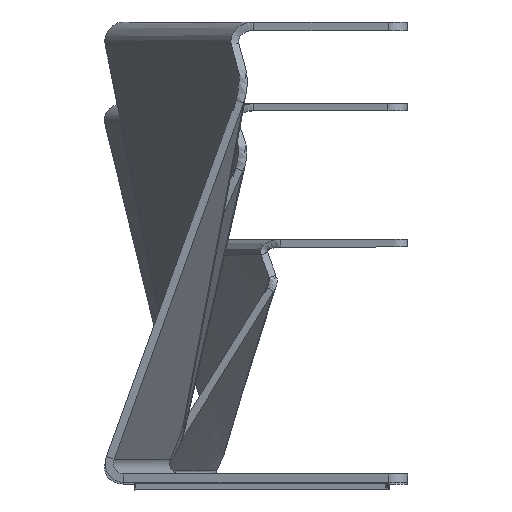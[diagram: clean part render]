
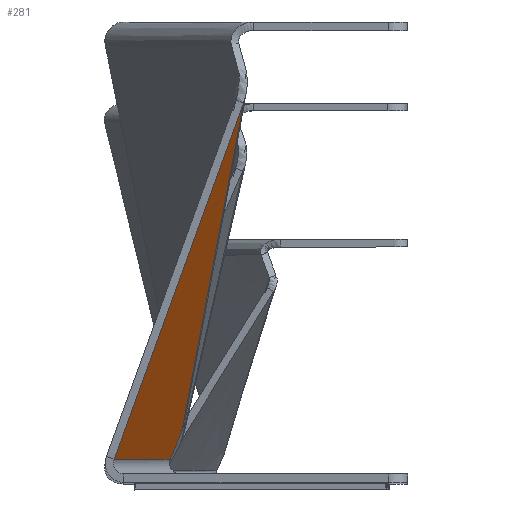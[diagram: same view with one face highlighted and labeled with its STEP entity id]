
A CAD part, left-side view. The second image highlights one B-rep face of the part: STEP entity #281.
In plain terms, the highlighted free-form (B-spline) face has degree [1, 9] with [2, 10] control points.
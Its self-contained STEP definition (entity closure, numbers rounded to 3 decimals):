
#281=ADVANCED_FACE('',(#495),#3029,.T.);
#495=FACE_OUTER_BOUND('',#709,.T.);
#709=EDGE_LOOP('',(#1436,#1437,#1438,#1439));
#1436=ORIENTED_EDGE('',*,*,#2030,.F.);
#1437=ORIENTED_EDGE('',*,*,#1997,.T.);
#1438=ORIENTED_EDGE('',*,*,#2029,.F.);
#1439=ORIENTED_EDGE('',*,*,#2028,.F.);
#1997=EDGE_CURVE('',#2787,#2788,#2433,.T.);
#2028=EDGE_CURVE('',#2803,#2805,#2459,.T.);
#2029=EDGE_CURVE('',#2805,#2788,#2460,.T.);
#2030=EDGE_CURVE('',#2787,#2803,#2461,.T.);
#2433=B_SPLINE_CURVE_WITH_KNOTS('',9,(#15454,#15455,#15456,#15457,#15458,
#15459,#15460,#15461,#15462,#15463),.UNSPECIFIED.,.F.,.F.,(10,10),(0.,1.),
 .UNSPECIFIED.);
#2459=B_SPLINE_CURVE_WITH_KNOTS('',9,(#15848,#15849,#15850,#15851,#15852,
#15853,#15854,#15855,#15856,#15857),.UNSPECIFIED.,.F.,.F.,(10,10),(0.,1.),
 .UNSPECIFIED.);
#2460=B_SPLINE_CURVE_WITH_KNOTS('',1,(#15858,#15859),.UNSPECIFIED.,.F.,
 .F.,(2,2),(0.,1.),.UNSPECIFIED.);
#2461=B_SPLINE_CURVE_WITH_KNOTS('',1,(#15860,#15861),.UNSPECIFIED.,.F.,
 .F.,(2,2),(-1.,0.),.UNSPECIFIED.);
#2787=VERTEX_POINT('',#15374);
#2788=VERTEX_POINT('',#15375);
#2803=VERTEX_POINT('',#15390);
#2805=VERTEX_POINT('',#15392);
#3029=B_SPLINE_SURFACE_WITH_KNOTS('',1,9,((#14872,#14873,#14874,#14875,
#14876,#14877,#14878,#14879,#14880,#14881),(#14882,#14883,#14884,#14885,
#14886,#14887,#14888,#14889,#14890,#14891)),.UNSPECIFIED.,.F.,.F.,.F.,(2,
2),(10,10),(0.,1.),(0.,1.),.UNSPECIFIED.);
#14872=CARTESIAN_POINT('',(715.053,326.036,89.334));
#14873=CARTESIAN_POINT('',(714.709,327.883,84.953));
#14874=CARTESIAN_POINT('',(714.364,329.73,80.572));
#14875=CARTESIAN_POINT('',(714.02,331.577,76.191));
#14876=CARTESIAN_POINT('',(713.675,333.425,71.81));
#14877=CARTESIAN_POINT('',(713.331,335.272,67.429));
#14878=CARTESIAN_POINT('',(712.986,337.119,63.048));
#14879=CARTESIAN_POINT('',(712.641,338.966,58.667));
#14880=CARTESIAN_POINT('',(712.297,340.814,54.286));
#14881=CARTESIAN_POINT('',(711.952,342.661,49.904));
#14882=CARTESIAN_POINT('',(376.64,240.797,544.808));
#14883=CARTESIAN_POINT('',(383.61,260.759,489.819));
#14884=CARTESIAN_POINT('',(390.579,280.721,434.829));
#14885=CARTESIAN_POINT('',(397.549,300.684,379.84));
#14886=CARTESIAN_POINT('',(404.519,320.646,324.851));
#14887=CARTESIAN_POINT('',(411.488,340.608,269.862));
#14888=CARTESIAN_POINT('',(418.458,360.57,214.872));
#14889=CARTESIAN_POINT('',(425.427,380.532,159.883));
#14890=CARTESIAN_POINT('',(432.397,400.494,104.894));
#14891=CARTESIAN_POINT('',(439.367,420.456,49.904));
#15374=CARTESIAN_POINT('',(376.64,240.797,544.808));
#15375=CARTESIAN_POINT('',(439.367,420.456,49.904));
#15390=CARTESIAN_POINT('',(715.053,326.036,89.334));
#15392=CARTESIAN_POINT('',(711.952,342.661,49.904));
#15454=CARTESIAN_POINT('',(376.64,240.797,544.808));
#15455=CARTESIAN_POINT('',(383.61,260.759,489.819));
#15456=CARTESIAN_POINT('',(390.579,280.721,434.829));
#15457=CARTESIAN_POINT('',(397.549,300.684,379.84));
#15458=CARTESIAN_POINT('',(404.519,320.646,324.851));
#15459=CARTESIAN_POINT('',(411.488,340.608,269.862));
#15460=CARTESIAN_POINT('',(418.458,360.57,214.872));
#15461=CARTESIAN_POINT('',(425.427,380.532,159.883));
#15462=CARTESIAN_POINT('',(432.397,400.494,104.894));
#15463=CARTESIAN_POINT('',(439.367,420.456,49.904));
#15848=CARTESIAN_POINT('',(715.053,326.036,89.334));
#15849=CARTESIAN_POINT('',(714.709,327.883,84.953));
#15850=CARTESIAN_POINT('',(714.364,329.73,80.572));
#15851=CARTESIAN_POINT('',(714.02,331.577,76.191));
#15852=CARTESIAN_POINT('',(713.675,333.425,71.81));
#15853=CARTESIAN_POINT('',(713.331,335.272,67.429));
#15854=CARTESIAN_POINT('',(712.986,337.119,63.048));
#15855=CARTESIAN_POINT('',(712.641,338.966,58.667));
#15856=CARTESIAN_POINT('',(712.297,340.814,54.286));
#15857=CARTESIAN_POINT('',(711.952,342.661,49.904));
#15858=CARTESIAN_POINT('',(711.952,342.661,49.904));
#15859=CARTESIAN_POINT('',(439.367,420.456,49.904));
#15860=CARTESIAN_POINT('',(376.64,240.797,544.808));
#15861=CARTESIAN_POINT('',(715.053,326.036,89.334));
